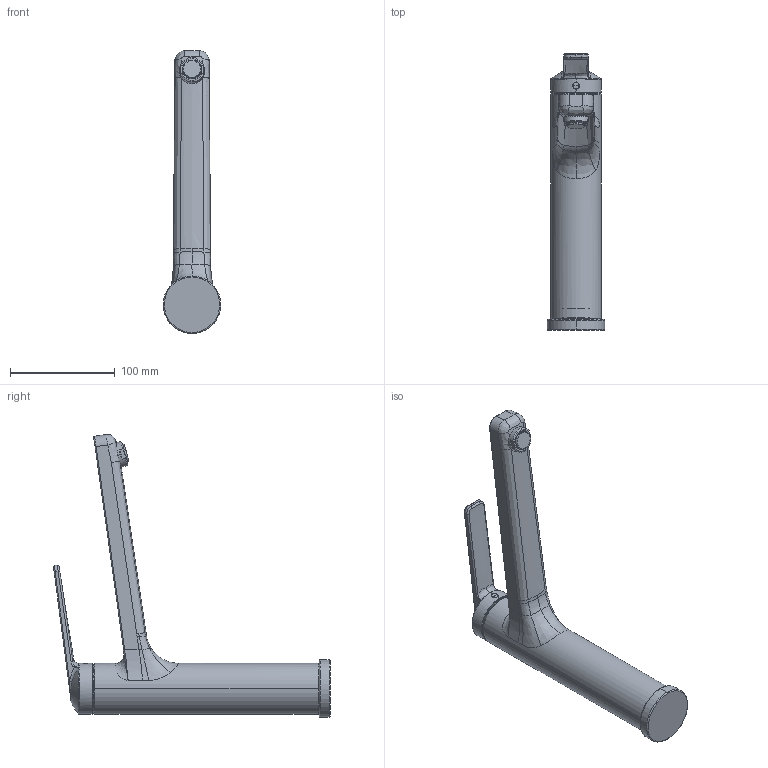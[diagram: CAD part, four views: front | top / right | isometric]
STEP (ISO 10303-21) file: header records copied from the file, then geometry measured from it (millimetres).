
FILE_DESCRIPTION((''),'2;1');
FILE_NAME('10661043','2019-11-22T12:02:32',('LF994'),(''),'CREO PARAMETRIC BY PTC INC, 2018500','CREO PARAMETRIC BY PTC INC, 2018500','');
FILE_SCHEMA(('CONFIG_CONTROL_DESIGN'));
Products named in the file (1): 10661043
Bounding box: 55 x 264.14 x 270.44 mm (x, y, z)
Volume: 212395.6 mm3; surface area: 133888.3 mm2
Topology: 3 solids, 3 shells, 3854 faces, 9986 edges, 6533 vertices
Faces by surface type: plane 2820, cone 560, bspline 264, cylinder 130, torus 67, sphere 11, revolution 2
Entity records: 151543 total; most frequent: CARTESIAN_POINT 69405, ORIENTED_EDGE 19962, DIRECTION 11925, EDGE_CURVE 9981, VERTEX_POINT 6533, B_SPLINE_CURVE_WITH_KNOTS 5920, AXIS2_PLACEMENT_3D 4272, EDGE_LOOP 4262
